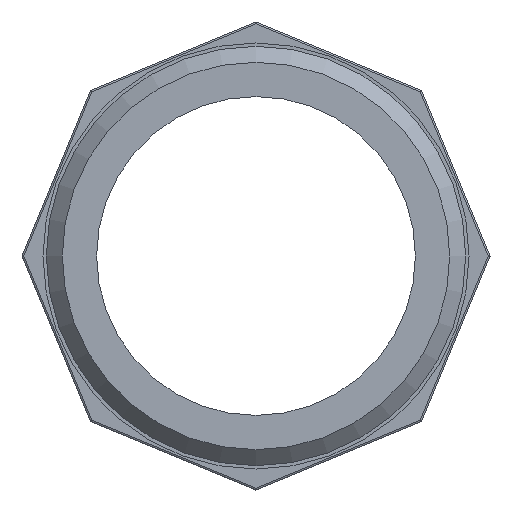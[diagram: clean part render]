
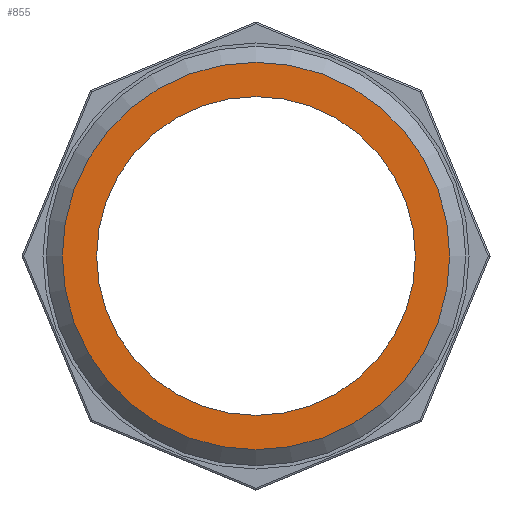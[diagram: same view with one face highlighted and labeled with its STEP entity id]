
A CAD part, front view. The second image highlights one B-rep face of the part: STEP entity #855.
In plain terms, the highlighted planar face has unit normal (0, -1, 0).
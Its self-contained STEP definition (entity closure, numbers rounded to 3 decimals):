
#157=PLANE('',#933);
#184=FACE_BOUND('',#281,.T.);
#206=FACE_OUTER_BOUND('',#280,.T.);
#280=EDGE_LOOP('',(#624));
#281=EDGE_LOOP('',(#625));
#368=CIRCLE('',#931,29.1);
#370=CIRCLE('',#934,23.95);
#436=VERTEX_POINT('',#1400);
#438=VERTEX_POINT('',#1405);
#504=EDGE_CURVE('',#436,#436,#368,.T.);
#506=EDGE_CURVE('',#438,#438,#370,.T.);
#624=ORIENTED_EDGE('',*,*,#504,.F.);
#625=ORIENTED_EDGE('',*,*,#506,.T.);
#855=ADVANCED_FACE('',(#206,#184),#157,.T.);
#931=AXIS2_PLACEMENT_3D('',#1401,#1079,#1080);
#933=AXIS2_PLACEMENT_3D('',#1404,#1083,#1084);
#934=AXIS2_PLACEMENT_3D('',#1406,#1085,#1086);
#1079=DIRECTION('center_axis',(0.,1.,0.));
#1080=DIRECTION('ref_axis',(1.,0.,0.));
#1083=DIRECTION('center_axis',(0.,-1.,0.));
#1084=DIRECTION('ref_axis',(0.,0.,-1.));
#1085=DIRECTION('center_axis',(0.,1.,0.));
#1086=DIRECTION('ref_axis',(-1.,0.,0.));
#1400=CARTESIAN_POINT('',(-29.1,-52.1,0.));
#1401=CARTESIAN_POINT('Origin',(0.,-52.1,0.));
#1404=CARTESIAN_POINT('Origin',(-31.5,-52.1,0.));
#1405=CARTESIAN_POINT('',(23.95,-52.1,0.));
#1406=CARTESIAN_POINT('Origin',(0.,-52.1,0.));
